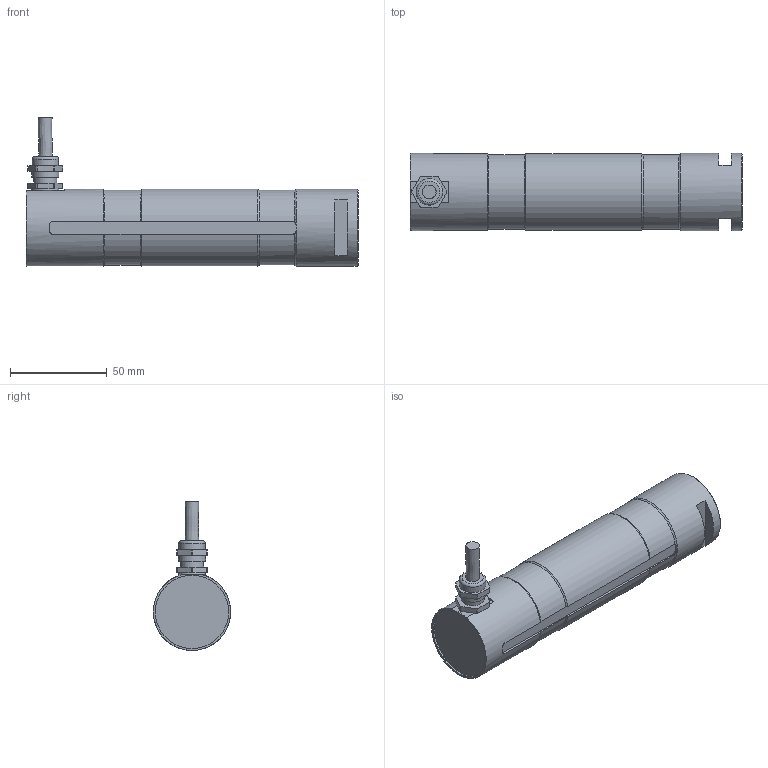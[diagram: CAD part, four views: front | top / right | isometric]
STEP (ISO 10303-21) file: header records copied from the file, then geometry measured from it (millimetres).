
FILE_DESCRIPTION(/* description */ ('Alibre Inc.'),/* implementation_level */ '2;1');
FILE_NAME(/* name */ 'export0',/* time_stamp */ '2012-07-19T10:55:53+02:00',/* author */ (''),/* organization */ (''),/* preprocessor_version */ 'ST-DEVELOPER v10',/* originating_system */ 'Alibre',/* authorisation */ '');
FILE_SCHEMA (('CONFIG_CONTROL_DESIGN'));
Length unit declared in the file: centimetre
Products named in the file (6): ID_1; ID_2; ID_3
Bounding box: 172 x 40 x 77.15 mm (x, y, z)
Volume: 211104.2 mm3; surface area: 28304.8 mm2
Topology: 4 solids, 4 shells, 91 faces, 221 edges, 145 vertices
Faces by surface type: plane 43, cylinder 35, torus 10, cone 2, bspline 1
Full cylindrical faces by diameter (mm): 7 x1, 8 x1, 12 x2, 13.7 x1, 14 x1, 38 x1, 40 x2
Entity records: 3777 total; most frequent: CARTESIAN_POINT 1309, ORIENTED_EDGE 408, DIRECTION 318, EDGE_CURVE 204, VERTEX_POINT 142, AXIS2_PLACEMENT_3D 132, FACE_BOUND 114, EDGE_LOOP 113
